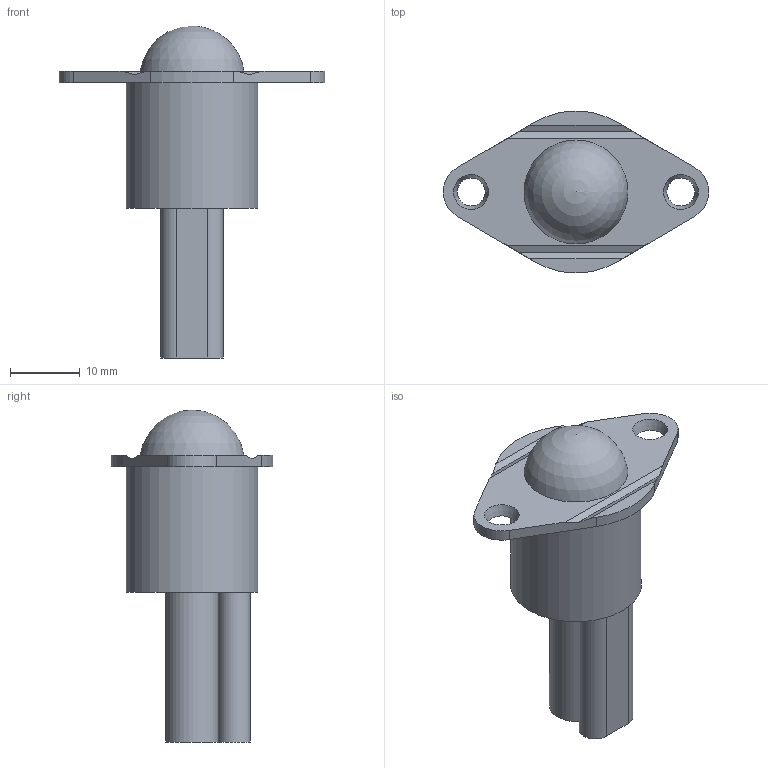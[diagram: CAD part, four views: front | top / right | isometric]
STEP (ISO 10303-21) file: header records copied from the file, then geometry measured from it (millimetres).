
FILE_DESCRIPTION(/* description */ ('Alibre Inc.'),/* implementation_level */ '2;1');
FILE_NAME(/* name */ 'export0',/* time_stamp */ '2013-08-21T10:30:07-06:00',/* author */ (''),/* organization */ (''),/* preprocessor_version */ 'ST-DEVELOPER v14',/* originating_system */ 'Alibre',/* authorisation */ '');
FILE_SCHEMA (('ALIBRE_SCHEMA','CONFIG_CONTROL_DESIGN'));
Length unit declared in the file: centimetre
Products named in the file (1): ID_1
Bounding box: 37.98 x 23.13 x 47.5 mm (x, y, z)
Volume: 8324.5 mm3; surface area: 3446.6 mm2
Topology: 1 solids, 1 shells, 28 faces, 73 edges, 49 vertices
Faces by surface type: plane 17, cylinder 8, cone 2, sphere 1
Full cylindrical faces by diameter (mm): 18.8 x1
Entity records: 2540 total; most frequent: CARTESIAN_POINT 449, REFERENCEDEPENDENTUV 189, DIRECTION 189, CONSTRAINTPAIRUV 144, ORIENTED_EDGE 134, VECTOR 102, REFERENCEPOINTUV 84, LINE 70
